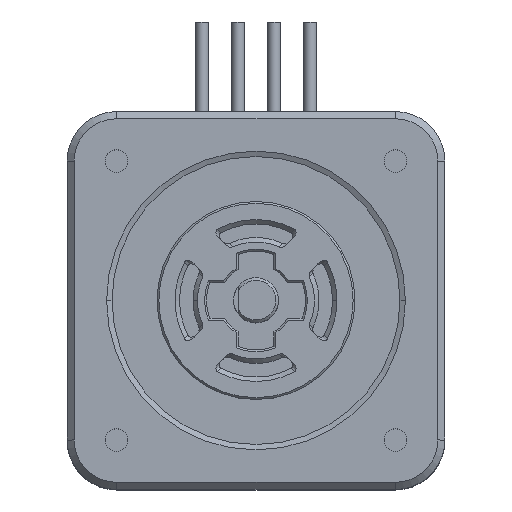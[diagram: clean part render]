
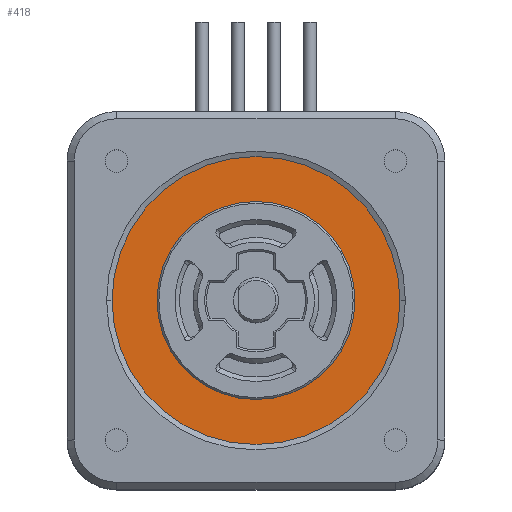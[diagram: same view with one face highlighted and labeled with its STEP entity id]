
A CAD part, top view. The second image highlights one B-rep face of the part: STEP entity #418.
In plain terms, the highlighted planar face has unit normal (0, 0, 1).
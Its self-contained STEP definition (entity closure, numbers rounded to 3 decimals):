
#304 = EDGE_CURVE ( 'NONE', #2675, #2688, #2461, .T. ) ;
#305 = EDGE_CURVE ( 'NONE', #3146, #2988, #2348, .T. ) ;
#418 = ADVANCED_FACE ( 'NONE', ( #9292, #9293 ), #5801, .T. ) ;
#916 = EDGE_CURVE ( 'NONE', #2688, #2675, #8465, .T. ) ;
#920 = EDGE_CURVE ( 'NONE', #2988, #3146, #8470, .T. ) ;
#1337 = CARTESIAN_POINT ( 'NONE',  ( 0., 0., -0.3 ) ) ;
#1338 = DIRECTION ( 'NONE',  ( 0., 0., 1. ) ) ;
#1339 = DIRECTION ( 'NONE',  ( 1., 0., 0. ) ) ;
#1347 = CARTESIAN_POINT ( 'NONE',  ( 0., 0., -0.3 ) ) ;
#1348 = DIRECTION ( 'NONE',  ( 0., 0., 1. ) ) ;
#1349 = DIRECTION ( 'NONE',  ( 1., 0., 0. ) ) ;
#2183 = CARTESIAN_POINT ( 'NONE',  ( -11., 0., -0.3 ) ) ;
#2189 = CARTESIAN_POINT ( 'NONE',  ( 11., 0., -0.3 ) ) ;
#2320 = AXIS2_PLACEMENT_3D ( 'NONE', #7562, #7561, #7560 ) ;
#2348 = CIRCLE ( 'NONE', #2320, 16. ) ;
#2368 = AXIS2_PLACEMENT_3D ( 'NONE', #7565, #7564, #7563 ) ;
#2461 = CIRCLE ( 'NONE', #2368, 11. ) ;
#2675 = VERTEX_POINT ( 'NONE', #2183 ) ;
#2688 = VERTEX_POINT ( 'NONE', #2189 ) ;
#2988 = VERTEX_POINT ( 'NONE', #3599 ) ;
#3146 = VERTEX_POINT ( 'NONE', #3647 ) ;
#3202 = ORIENTED_EDGE ( 'NONE', *, *, #916, .F. ) ;
#3210 = ORIENTED_EDGE ( 'NONE', *, *, #920, .T. ) ;
#3214 = ORIENTED_EDGE ( 'NONE', *, *, #305, .T. ) ;
#3232 = ORIENTED_EDGE ( 'NONE', *, *, #304, .F. ) ;
#3599 = CARTESIAN_POINT ( 'NONE',  ( -16., 0., -0.3 ) ) ;
#3647 = CARTESIAN_POINT ( 'NONE',  ( 16., 0., -0.3 ) ) ;
#5796 = DIRECTION ( 'NONE',  ( 1., 0., 0. ) ) ;
#5797 = DIRECTION ( 'NONE',  ( 0., 0., 1. ) ) ;
#5798 = CARTESIAN_POINT ( 'NONE',  ( 0., 0., -0.3 ) ) ;
#5801 = PLANE ( 'NONE',  #6732 ) ;
#6732 = AXIS2_PLACEMENT_3D ( 'NONE', #5798, #5797, #5796 ) ;
#7560 = DIRECTION ( 'NONE',  ( 1., 0., 0. ) ) ;
#7561 = DIRECTION ( 'NONE',  ( 0., 0., 1. ) ) ;
#7562 = CARTESIAN_POINT ( 'NONE',  ( 0., 0., -0.3 ) ) ;
#7563 = DIRECTION ( 'NONE',  ( 1., 0., 0. ) ) ;
#7564 = DIRECTION ( 'NONE',  ( 0., 0., 1. ) ) ;
#7565 = CARTESIAN_POINT ( 'NONE',  ( 0., 0., -0.3 ) ) ;
#8465 = CIRCLE ( 'NONE', #8475, 11. ) ;
#8470 = CIRCLE ( 'NONE', #8482, 16. ) ;
#8475 = AXIS2_PLACEMENT_3D ( 'NONE', #1337, #1338, #1339 ) ;
#8482 = AXIS2_PLACEMENT_3D ( 'NONE', #1347, #1348, #1349 ) ;
#9003 = EDGE_LOOP ( 'NONE', ( #3232, #3202 ) ) ;
#9024 = EDGE_LOOP ( 'NONE', ( #3214, #3210 ) ) ;
#9292 = FACE_BOUND ( 'NONE', #9003, .T. ) ;
#9293 = FACE_OUTER_BOUND ( 'NONE', #9024, .T. ) ;
